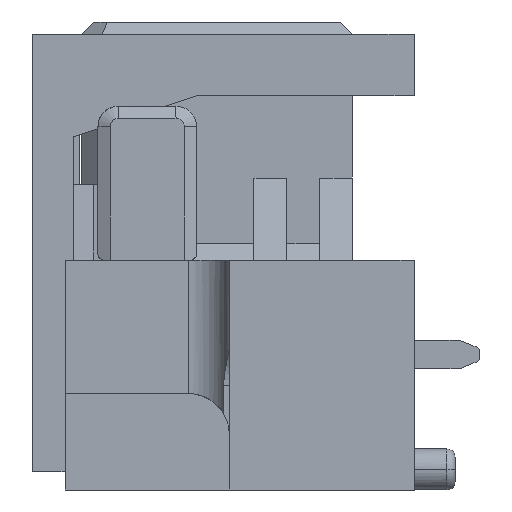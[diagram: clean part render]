
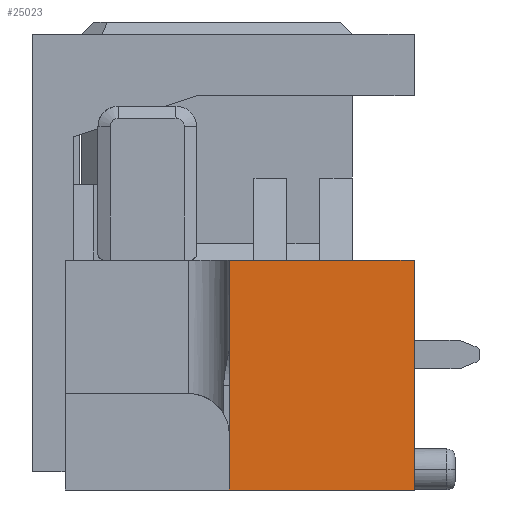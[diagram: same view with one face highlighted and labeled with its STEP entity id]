
A CAD part, left-side view. The second image highlights one B-rep face of the part: STEP entity #25023.
In plain terms, the highlighted planar face has unit normal (-1, 0, 0).
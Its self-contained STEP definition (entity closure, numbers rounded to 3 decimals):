
#9313=DIRECTION('',(0.,-1.,0.));
#9314=VECTOR('',#9313,4.5);
#9315=CARTESIAN_POINT('',(-13.,4.5,0.));
#9316=LINE('',#9315,#9314);
#9317=DIRECTION('',(0.,0.,-1.));
#9318=VECTOR('',#9317,5.6);
#9319=CARTESIAN_POINT('',(-13.,0.,0.));
#9320=LINE('',#9319,#9318);
#9321=DIRECTION('',(0.,1.,0.));
#9322=VECTOR('',#9321,4.5);
#9323=CARTESIAN_POINT('',(-13.,0.,-5.6));
#9324=LINE('',#9323,#9322);
#9334=DIRECTION('',(0.,0.,-1.));
#9335=VECTOR('',#9334,5.6);
#9336=CARTESIAN_POINT('',(-13.,4.5,0.));
#9337=LINE('',#9336,#9335);
#10361=CARTESIAN_POINT('',(-13.,0.,0.));
#10362=VERTEX_POINT('',#10361);
#10363=CARTESIAN_POINT('',(-13.,4.5,0.));
#10364=VERTEX_POINT('',#10363);
#12709=CARTESIAN_POINT('',(-13.,4.5,-5.6));
#12710=VERTEX_POINT('',#12709);
#12711=CARTESIAN_POINT('',(-13.,0.,-5.6));
#12712=VERTEX_POINT('',#12711);
#25011=CARTESIAN_POINT('',(-13.,2.25,-2.8));
#25012=DIRECTION('',(1.,0.,0.));
#25013=DIRECTION('',(0.,-1.,0.));
#25014=AXIS2_PLACEMENT_3D('',#25011,#25012,#25013);
#25015=PLANE('',#25014);
#25016=ORIENTED_EDGE('',*,*,#12956,.T.);
#25017=ORIENTED_EDGE('',*,*,#24868,.T.);
#25018=ORIENTED_EDGE('',*,*,#24747,.T.);
#25020=ORIENTED_EDGE('',*,*,#25019,.F.);
#25021=EDGE_LOOP('',(#25016,#25017,#25018,#25020));
#25022=FACE_OUTER_BOUND('',#25021,.F.);
#12956=EDGE_CURVE('',#10364,#10362,#9316,.T.);
#24747=EDGE_CURVE('',#12712,#12710,#9324,.T.);
#24868=EDGE_CURVE('',#10362,#12712,#9320,.T.);
#25019=EDGE_CURVE('',#10364,#12710,#9337,.T.);
#25023=ADVANCED_FACE('',(#25022),#25015,.F.);
